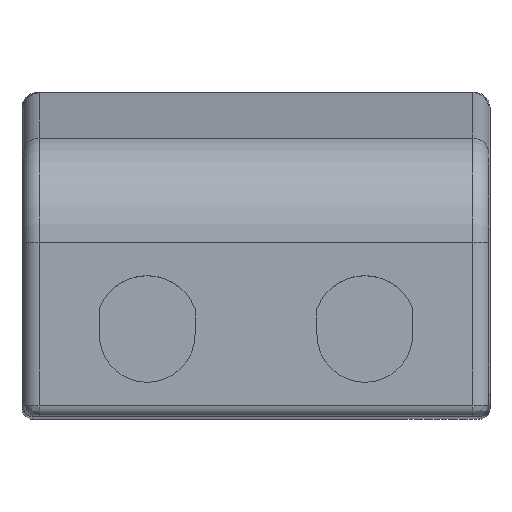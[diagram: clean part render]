
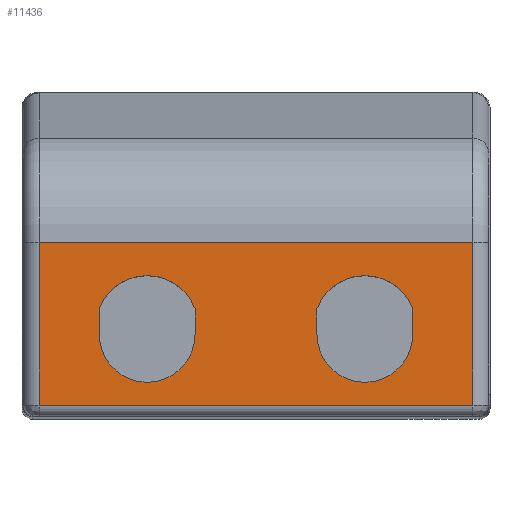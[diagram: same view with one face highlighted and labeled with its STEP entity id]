
A CAD part, top view. The second image highlights one B-rep face of the part: STEP entity #11436.
In plain terms, the highlighted planar face has unit normal (0, 0, 1).
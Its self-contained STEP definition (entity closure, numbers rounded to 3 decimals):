
#9883=CARTESIAN_POINT('',(-10.,8.2,30.));
#9884=DIRECTION('',(0.,0.,1.));
#9885=DIRECTION('',(0.936,0.352,0.));
#9886=AXIS2_PLACEMENT_3D('',#9883,#9884,#9885);
#9888=DIRECTION('',(0.,-1.,0.));
#9889=VECTOR('',#9888,2.352);
#9890=CARTESIAN_POINT('',(-14.4,9.852,30.));
#9891=LINE('',#9890,#9889);
#9892=CARTESIAN_POINT('',(-10.,7.5,30.));
#9893=DIRECTION('',(0.,0.,1.));
#9894=DIRECTION('',(-1.,0.,0.));
#9895=AXIS2_PLACEMENT_3D('',#9892,#9893,#9894);
#9897=DIRECTION('',(0.,1.,0.));
#9898=VECTOR('',#9897,2.352);
#9899=CARTESIAN_POINT('',(-5.6,7.5,30.));
#9900=LINE('',#9899,#9898);
#9901=CARTESIAN_POINT('',(10.,8.2,30.));
#9902=DIRECTION('',(0.,0.,1.));
#9903=DIRECTION('',(0.936,0.352,0.));
#9904=AXIS2_PLACEMENT_3D('',#9901,#9902,#9903);
#9906=DIRECTION('',(0.,-1.,0.));
#9907=VECTOR('',#9906,2.352);
#9908=CARTESIAN_POINT('',(5.6,9.852,30.));
#9909=LINE('',#9908,#9907);
#9910=CARTESIAN_POINT('',(10.,7.5,30.));
#9911=DIRECTION('',(0.,0.,1.));
#9912=DIRECTION('',(-1.,0.,0.));
#9913=AXIS2_PLACEMENT_3D('',#9910,#9911,#9912);
#9915=DIRECTION('',(0.,1.,0.));
#9916=VECTOR('',#9915,2.352);
#9917=CARTESIAN_POINT('',(14.4,7.5,30.));
#9918=LINE('',#9917,#9916);
#9919=DIRECTION('',(1.,0.,0.));
#9920=VECTOR('',#9919,39.8);
#9921=CARTESIAN_POINT('',(-19.9,1.,30.));
#9922=LINE('',#9921,#9920);
#9923=DIRECTION('',(0.,1.,0.));
#9924=VECTOR('',#9923,14.957);
#9925=CARTESIAN_POINT('',(-19.9,1.,30.));
#9926=LINE('',#9925,#9924);
#9927=DIRECTION('',(1.,0.,0.));
#9928=VECTOR('',#9927,39.8);
#9929=CARTESIAN_POINT('',(-19.9,15.957,30.));
#9930=LINE('',#9929,#9928);
#9931=DIRECTION('',(0.,-1.,0.));
#9932=VECTOR('',#9931,14.957);
#9933=CARTESIAN_POINT('',(19.9,15.957,30.));
#9934=LINE('',#9933,#9932);
#10732=CARTESIAN_POINT('',(-5.6,9.852,30.));
#10733=CARTESIAN_POINT('',(-14.4,9.852,30.));
#10734=VERTEX_POINT('',#10732);
#10735=VERTEX_POINT('',#10733);
#10736=CARTESIAN_POINT('',(-14.4,7.5,30.));
#10737=VERTEX_POINT('',#10736);
#10738=CARTESIAN_POINT('',(-5.6,7.5,30.));
#10739=VERTEX_POINT('',#10738);
#10740=CARTESIAN_POINT('',(14.4,9.852,30.));
#10741=CARTESIAN_POINT('',(5.6,9.852,30.));
#10742=VERTEX_POINT('',#10740);
#10743=VERTEX_POINT('',#10741);
#10744=CARTESIAN_POINT('',(5.6,7.5,30.));
#10745=VERTEX_POINT('',#10744);
#10746=CARTESIAN_POINT('',(14.4,7.5,30.));
#10747=VERTEX_POINT('',#10746);
#10799=CARTESIAN_POINT('',(19.9,15.957,30.));
#10801=VERTEX_POINT('',#10799);
#10818=CARTESIAN_POINT('',(-19.9,15.957,30.));
#10820=VERTEX_POINT('',#10818);
#10878=CARTESIAN_POINT('',(19.9,1.,30.));
#10879=VERTEX_POINT('',#10878);
#10882=CARTESIAN_POINT('',(-19.9,1.,30.));
#10883=VERTEX_POINT('',#10882);
#11403=CARTESIAN_POINT('',(-21.4,15.957,30.));
#11404=DIRECTION('',(0.,0.,1.));
#11405=DIRECTION('',(0.,-1.,0.));
#11406=AXIS2_PLACEMENT_3D('',#11403,#11404,#11405);
#11407=PLANE('',#11406);
#11408=ORIENTED_EDGE('',*,*,#11394,.F.);
#11409=ORIENTED_EDGE('',*,*,#11024,.T.);
#11411=ORIENTED_EDGE('',*,*,#11410,.T.);
#11413=ORIENTED_EDGE('',*,*,#11412,.T.);
#11414=EDGE_LOOP('',(#11408,#11409,#11411,#11413));
#11415=FACE_OUTER_BOUND('',#11414,.F.);
#11417=ORIENTED_EDGE('',*,*,#11416,.T.);
#11419=ORIENTED_EDGE('',*,*,#11418,.T.);
#11421=ORIENTED_EDGE('',*,*,#11420,.T.);
#11423=ORIENTED_EDGE('',*,*,#11422,.T.);
#11424=EDGE_LOOP('',(#11417,#11419,#11421,#11423));
#11425=FACE_BOUND('',#11424,.F.);
#11427=ORIENTED_EDGE('',*,*,#11426,.T.);
#11429=ORIENTED_EDGE('',*,*,#11428,.T.);
#11431=ORIENTED_EDGE('',*,*,#11430,.T.);
#11433=ORIENTED_EDGE('',*,*,#11432,.T.);
#11434=EDGE_LOOP('',(#11427,#11429,#11431,#11433));
#11435=FACE_BOUND('',#11434,.F.);
#11436=ADVANCED_FACE('',(#11415,#11425,#11435),#11407,.T.);
#9887=CIRCLE('',#9886,4.7);
#9896=CIRCLE('',#9895,4.4);
#9905=CIRCLE('',#9904,4.7);
#9914=CIRCLE('',#9913,4.4);
#11024=EDGE_CURVE('',#10883,#10820,#9926,.T.);
#11394=EDGE_CURVE('',#10883,#10879,#9922,.T.);
#11410=EDGE_CURVE('',#10820,#10801,#9930,.T.);
#11412=EDGE_CURVE('',#10801,#10879,#9934,.T.);
#11416=EDGE_CURVE('',#10742,#10743,#9905,.T.);
#11418=EDGE_CURVE('',#10743,#10745,#9909,.T.);
#11420=EDGE_CURVE('',#10745,#10747,#9914,.T.);
#11422=EDGE_CURVE('',#10747,#10742,#9918,.T.);
#11426=EDGE_CURVE('',#10734,#10735,#9887,.T.);
#11428=EDGE_CURVE('',#10735,#10737,#9891,.T.);
#11430=EDGE_CURVE('',#10737,#10739,#9896,.T.);
#11432=EDGE_CURVE('',#10739,#10734,#9900,.T.);
